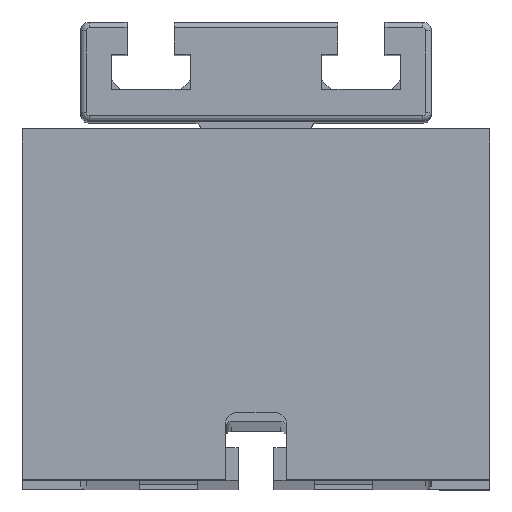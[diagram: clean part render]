
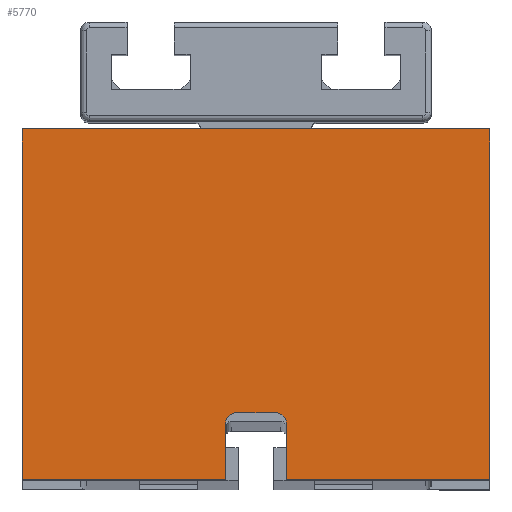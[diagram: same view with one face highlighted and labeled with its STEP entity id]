
A CAD part, top view. The second image highlights one B-rep face of the part: STEP entity #5770.
In plain terms, the highlighted planar face has unit normal (0, 0, 1).
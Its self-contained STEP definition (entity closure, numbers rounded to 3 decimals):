
#18 = EDGE_CURVE ( 'NONE', #1917, #5321, #4524, .T. ) ;
#284 = DIRECTION ( 'NONE',  ( 1., 0., 0. ) ) ;
#297 = CIRCLE ( 'NONE', #1641, 2. ) ;
#386 = LINE ( 'NONE', #2318, #2000 ) ;
#443 = DIRECTION ( 'NONE',  ( 1., 0., 0. ) ) ;
#472 = CARTESIAN_POINT ( 'NONE',  ( 0., -30., 12. ) ) ;
#488 = VERTEX_POINT ( 'NONE', #5555 ) ;
#491 = DIRECTION ( 'NONE',  ( 0., 0., 1. ) ) ;
#509 = DIRECTION ( 'NONE',  ( 1., 0., 0. ) ) ;
#514 = EDGE_CURVE ( 'NONE', #488, #4135, #297, .T. ) ;
#574 = DIRECTION ( 'NONE',  ( 1., 0., 0. ) ) ;
#643 = LINE ( 'NONE', #2459, #1424 ) ;
#668 = EDGE_CURVE ( 'NONE', #4135, #2212, #4285, .T. ) ;
#722 = CARTESIAN_POINT ( 'NONE',  ( 5.25, 0., 12. ) ) ;
#780 = CARTESIAN_POINT ( 'NONE',  ( 5.25, -30., 12. ) ) ;
#891 = DIRECTION ( 'NONE',  ( 0., -1., 0. ) ) ;
#1250 = CARTESIAN_POINT ( 'NONE',  ( 40., 0., 12. ) ) ;
#1330 = VECTOR ( 'NONE', #284, 1000. ) ;
#1424 = VECTOR ( 'NONE', #2489, 1000. ) ;
#1427 = VECTOR ( 'NONE', #891, 1000. ) ;
#1561 = EDGE_CURVE ( 'NONE', #3041, #2512, #4678, .T. ) ;
#1621 = ORIENTED_EDGE ( 'NONE', *, *, #18, .F. ) ;
#1641 = AXIS2_PLACEMENT_3D ( 'NONE', #3658, #4588, #509 ) ;
#1659 = CARTESIAN_POINT ( 'NONE',  ( 40., -30., 12. ) ) ;
#1787 = DIRECTION ( 'NONE',  ( 1., 0., 0. ) ) ;
#1814 = ORIENTED_EDGE ( 'NONE', *, *, #5255, .T. ) ;
#1864 = CARTESIAN_POINT ( 'NONE',  ( -40., -30., 12. ) ) ;
#1917 = VERTEX_POINT ( 'NONE', #2830 ) ;
#1964 = VERTEX_POINT ( 'NONE', #2566 ) ;
#1998 = DIRECTION ( 'NONE',  ( 0., 0., 1. ) ) ;
#2000 = VECTOR ( 'NONE', #4546, 1000. ) ;
#2024 = PLANE ( 'NONE',  #5075 ) ;
#2212 = VERTEX_POINT ( 'NONE', #780 ) ;
#2318 = CARTESIAN_POINT ( 'NONE',  ( -40., 0., 12. ) ) ;
#2402 = ORIENTED_EDGE ( 'NONE', *, *, #5416, .T. ) ;
#2459 = CARTESIAN_POINT ( 'NONE',  ( 0., -30., 12. ) ) ;
#2465 = FACE_OUTER_BOUND ( 'NONE', #3008, .T. ) ;
#2489 = DIRECTION ( 'NONE',  ( 1., 0., 0. ) ) ;
#2510 = VECTOR ( 'NONE', #574, 1000. ) ;
#2512 = VERTEX_POINT ( 'NONE', #4277 ) ;
#2553 = VECTOR ( 'NONE', #5296, 1000. ) ;
#2566 = CARTESIAN_POINT ( 'NONE',  ( -3.25, -18.5, 12. ) ) ;
#2670 = CARTESIAN_POINT ( 'NONE',  ( -3.25, -20.5, 12. ) ) ;
#2770 = ORIENTED_EDGE ( 'NONE', *, *, #4005, .F. ) ;
#2830 = CARTESIAN_POINT ( 'NONE',  ( -5.25, -20.5, 12. ) ) ;
#2868 = CARTESIAN_POINT ( 'NONE',  ( 0., 30., 12. ) ) ;
#2898 = CARTESIAN_POINT ( 'NONE',  ( 5.25, -20.5, 12. ) ) ;
#2923 = ORIENTED_EDGE ( 'NONE', *, *, #5573, .T. ) ;
#3008 = EDGE_LOOP ( 'NONE', ( #2402, #3091, #4557, #5315, #4233, #3802, #2923, #1814, #1621, #2770 ) ) ;
#3041 = VERTEX_POINT ( 'NONE', #5326 ) ;
#3048 = VERTEX_POINT ( 'NONE', #1659 ) ;
#3057 = VECTOR ( 'NONE', #4376, 1000. ) ;
#3091 = ORIENTED_EDGE ( 'NONE', *, *, #514, .T. ) ;
#3214 = LINE ( 'NONE', #472, #4100 ) ;
#3424 = LINE ( 'NONE', #5268, #1330 ) ;
#3658 = CARTESIAN_POINT ( 'NONE',  ( 3.25, -20.5, 12. ) ) ;
#3802 = ORIENTED_EDGE ( 'NONE', *, *, #1561, .F. ) ;
#4005 = EDGE_CURVE ( 'NONE', #1964, #1917, #5537, .T. ) ;
#4100 = VECTOR ( 'NONE', #443, 1000. ) ;
#4135 = VERTEX_POINT ( 'NONE', #2898 ) ;
#4233 = ORIENTED_EDGE ( 'NONE', *, *, #5483, .F. ) ;
#4277 = CARTESIAN_POINT ( 'NONE',  ( 40., 30., 12. ) ) ;
#4285 = LINE ( 'NONE', #722, #3057 ) ;
#4303 = CARTESIAN_POINT ( 'NONE',  ( 0., 0., 12. ) ) ;
#4376 = DIRECTION ( 'NONE',  ( 0., -1., 0. ) ) ;
#4411 = VERTEX_POINT ( 'NONE', #1864 ) ;
#4524 = LINE ( 'NONE', #5870, #1427 ) ;
#4546 = DIRECTION ( 'NONE',  ( 0., -1., 0. ) ) ;
#4557 = ORIENTED_EDGE ( 'NONE', *, *, #668, .T. ) ;
#4588 = DIRECTION ( 'NONE',  ( 0., 0., -1. ) ) ;
#4652 = CARTESIAN_POINT ( 'NONE',  ( -5.25, -30., 12. ) ) ;
#4678 = LINE ( 'NONE', #2868, #2510 ) ;
#5075 = AXIS2_PLACEMENT_3D ( 'NONE', #4303, #1998, #5182 ) ;
#5182 = DIRECTION ( 'NONE',  ( 1., 0., 0. ) ) ;
#5255 = EDGE_CURVE ( 'NONE', #4411, #5321, #643, .T. ) ;
#5268 = CARTESIAN_POINT ( 'NONE',  ( 0., -18.5, 12. ) ) ;
#5296 = DIRECTION ( 'NONE',  ( 0., -1., 0. ) ) ;
#5315 = ORIENTED_EDGE ( 'NONE', *, *, #5587, .T. ) ;
#5321 = VERTEX_POINT ( 'NONE', #4652 ) ;
#5326 = CARTESIAN_POINT ( 'NONE',  ( -40., 30., 12. ) ) ;
#5416 = EDGE_CURVE ( 'NONE', #1964, #488, #3424, .T. ) ;
#5445 = AXIS2_PLACEMENT_3D ( 'NONE', #2670, #491, #1787 ) ;
#5483 = EDGE_CURVE ( 'NONE', #2512, #3048, #5792, .T. ) ;
#5537 = CIRCLE ( 'NONE', #5445, 2. ) ;
#5555 = CARTESIAN_POINT ( 'NONE',  ( 3.25, -18.5, 12. ) ) ;
#5573 = EDGE_CURVE ( 'NONE', #3041, #4411, #386, .T. ) ;
#5587 = EDGE_CURVE ( 'NONE', #2212, #3048, #3214, .T. ) ;
#5770 = ADVANCED_FACE ( 'NONE', ( #2465 ), #2024, .T. ) ;
#5792 = LINE ( 'NONE', #1250, #2553 ) ;
#5870 = CARTESIAN_POINT ( 'NONE',  ( -5.25, 0., 12. ) ) ;
